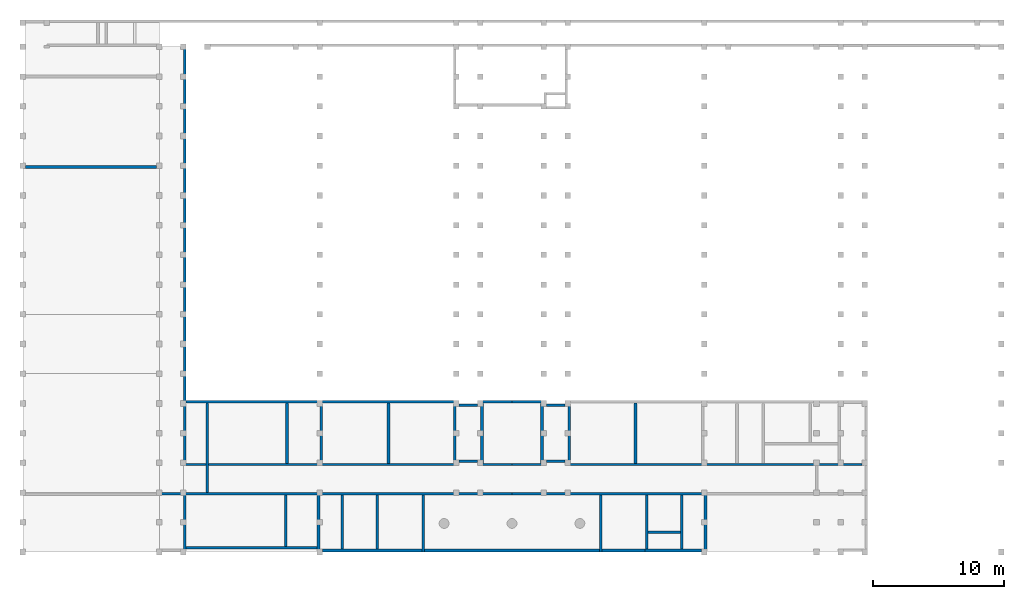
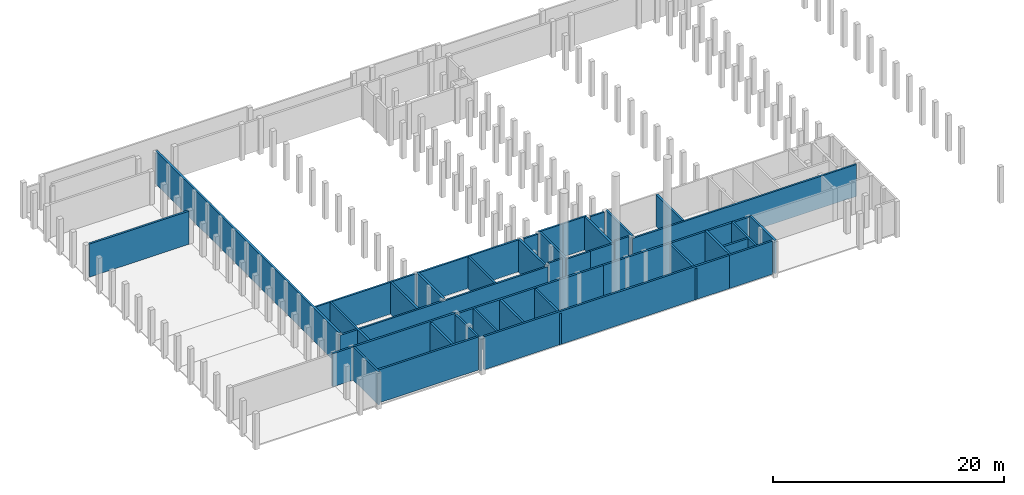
# One storey, part 8 of 9: 40 walls, 1 opening.
"""IFC2X3 building model written with IfcOpenShell, lengths in millimetres."""

from ifc_helpers import new_model, entity, si_unit, converted_unit, derived_unit, direction, frame, frame_2d, origin, place, context, subcontext, project, spatial, polyline, rectangle, extrude, clip, bounded_halfspace, material, layer, layer_set, layer_usage, type_object, element, save


model = new_model("IFC2X3")

# Units and contexts
model_context = context("Model", 3, precision=0.01, world=origin(), true_north=direction((6.12303176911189e-17, 1.0)))
body_context = subcontext(model_context, "Body", "Model", "MODEL_VIEW")
ifc_project = project(units=[si_unit("LENGTHUNIT", "METRE", prefix="MILLI"), si_unit("AREAUNIT", "SQUARE_METRE"), si_unit("VOLUMEUNIT", "CUBIC_METRE"), converted_unit("PLANEANGLEUNIT", "DEGREE", entity("IfcRatioMeasure", 0.0174532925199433), si_unit("PLANEANGLEUNIT", "RADIAN"), dimensions=[0, 0, 0, 0, 0, 0, 0]), si_unit("MASSUNIT", "GRAM", prefix="KILO"), derived_unit("MASSDENSITYUNIT", [(si_unit("MASSUNIT", "GRAM", prefix="KILO"), 1), (si_unit("LENGTHUNIT", "METRE"), -3)]), derived_unit("MOMENTOFINERTIAUNIT", [(si_unit("LENGTHUNIT", "METRE"), 4)]), si_unit("TIMEUNIT", "SECOND"), si_unit("FREQUENCYUNIT", "HERTZ"), si_unit("THERMODYNAMICTEMPERATUREUNIT", "DEGREE_CELSIUS"), derived_unit("THERMALTRANSMITTANCEUNIT", [(si_unit("MASSUNIT", "GRAM", prefix="KILO"), 1), (si_unit("THERMODYNAMICTEMPERATUREUNIT", "KELVIN"), -1), (si_unit("TIMEUNIT", "SECOND"), -3)]), derived_unit("VOLUMETRICFLOWRATEUNIT", [(si_unit("LENGTHUNIT", "METRE"), 3), (si_unit("TIMEUNIT", "SECOND"), -1)]), si_unit("ELECTRICCURRENTUNIT", "AMPERE"), si_unit("ELECTRICVOLTAGEUNIT", "VOLT"), si_unit("POWERUNIT", "WATT"), si_unit("FORCEUNIT", "NEWTON", prefix="KILO"), si_unit("ILLUMINANCEUNIT", "LUX"), si_unit("LUMINOUSFLUXUNIT", "LUMEN"), si_unit("LUMINOUSINTENSITYUNIT", "CANDELA"), derived_unit("USERDEFINED", [(si_unit("MASSUNIT", "GRAM", prefix="KILO"), -1), (si_unit("LENGTHUNIT", "METRE"), -2), (si_unit("TIMEUNIT", "SECOND"), 3), (si_unit("LUMINOUSFLUXUNIT", "LUMEN"), 1)]), derived_unit("LINEARVELOCITYUNIT", [(si_unit("LENGTHUNIT", "METRE"), 1), (si_unit("TIMEUNIT", "SECOND"), -1)]), si_unit("PRESSUREUNIT", "PASCAL"), derived_unit("USERDEFINED", [(si_unit("LENGTHUNIT", "METRE"), -2), (si_unit("MASSUNIT", "GRAM", prefix="KILO"), 1), (si_unit("TIMEUNIT", "SECOND"), -2)]), derived_unit("LINEARFORCEUNIT", [(si_unit("MASSUNIT", "GRAM", prefix="KILO"), 1), (si_unit("LENGTHUNIT", "METRE"), 1), (si_unit("TIMEUNIT", "SECOND"), -2), (si_unit("LENGTHUNIT", "METRE"), -1)]), derived_unit("PLANARFORCEUNIT", [(si_unit("MASSUNIT", "GRAM", prefix="KILO"), 1), (si_unit("LENGTHUNIT", "METRE"), 1), (si_unit("TIMEUNIT", "SECOND"), -2), (si_unit("LENGTHUNIT", "METRE"), -2)])], contexts=[model_context])

# Site, building, storey
site_placement = place(None, frame((10627.5135316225, 21939.0796949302, 0.0)))
site = spatial("IfcSite", under=ifc_project, at=site_placement, Name="Default", CompositionType="ELEMENT")
building_placement = place(site_placement, origin())
building = spatial("IfcBuilding", under=site, at=building_placement, CompositionType="ELEMENT")
storey_placement = place(building_placement, frame((0.0, 0.0, -3500.0)))
storey = spatial("IfcBuildingStorey", under=building, at=storey_placement, Name="R-1", CompositionType="ELEMENT", Elevation=-3500.0)

# Walls
ifc_material_1 = material(Name="Concrete - Cast-in-Place Concrete")
ifc_layer_1 = layer(ifc_material_1, 200.0)
ifc_layer_set_1 = layer_set([ifc_layer_1], Name="Basic Wall:Wall-Fnd_200interior")
ifc_layer_usage_1 = layer_usage(ifc_layer_set_1, "AXIS2", "NEGATIVE", 100.0)
wall_type_1 = type_object("IfcWallType", Name="Basic Wall:Wall-Fnd_200interior", PredefinedType="STANDARD", material=ifc_layer_set_1)
wall_1_placement = place(storey_placement, frame((1682.4864683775, -17519.0796949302, 0.0)))
element("IfcWallStandardCase", 1, at=wall_1_placement, inside=storey, type_object=wall_type_1, material=ifc_layer_usage_1, Name="Basic Wall:Wall-Fnd_200interior", ObjectType="Basic Wall:Wall-Fnd_200interior", context=body_context, shape_type="SweptSolid", body=[
    extrude(rectangle(XDim=10180.0, YDim=199.999999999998, at=frame_2d((5090.0, -3.12638803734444e-13), x_axis=(-1.0, 0.0))), origin(), (0.0, 0.0, 1.0), 3500.0),
])
ifc_layer_usage_2 = layer_usage(ifc_layer_set_1, "AXIS2", "NEGATIVE", 100.0)
wall_2_placement = place(storey_placement, frame((1682.48646837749, -21939.0796949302, 0.0), z_axis=(0.0, 0.0, 1.0), x_axis=(0.0, 1.0, 0.0)))
element("IfcWallStandardCase", 2, at=wall_2_placement, inside=storey, type_object=wall_type_1, material=ifc_layer_usage_2, Name="Basic Wall:Wall-Fnd_200interior", ObjectType="Basic Wall:Wall-Fnd_200interior", context=body_context, shape_type="SweptSolid", body=[
    extrude(rectangle(XDim=4320.0, YDim=200.0, at=frame_2d((2160.0, -2.1316282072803e-14), x_axis=(-1.0, 0.0))), origin(), (0.0, 0.0, 1.0), 3500.0),
])
ifc_layer_usage_3 = layer_usage(ifc_layer_set_1, "AXIS2", "POSITIVE", -100.0)
wall_3_placement = place(storey_placement, frame((11862.4864683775, -21939.0796949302, 0.0), z_axis=(0.0, 0.0, 1.0), x_axis=(0.0, 1.0, 0.0)))
element("IfcWallStandardCase", 3, at=wall_3_placement, inside=storey, type_object=wall_type_1, material=ifc_layer_usage_3, Name="Basic Wall:Wall-Fnd_200interior", ObjectType="Basic Wall:Wall-Fnd_200interior", context=body_context, shape_type="Clipping", body=[
    clip(extrude(rectangle(XDim=4320.0, YDim=199.999999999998, at=frame_2d((2160.0, -1.4210854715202e-13), x_axis=(-1.0, 0.0))), origin(), (0.0, 0.0, 1.0), 3370.0), bounded_halfspace(frame((30.0, -100.0, 3370.0), z_axis=(0.0, 0.0, -1.0), x_axis=(-1.0, 0.0, 0.0)), True, frame((30.0, -100.0, 3370.0)), polyline([(0.0, 0.0), (4290.0, 0.0), (4290.0, 15.0), (0.0, 15.0), (0.0, 0.0)]))),
])
ifc_layer_usage_4 = layer_usage(ifc_layer_set_1, "AXIS2", "POSITIVE", -100.0)
wall_4_placement = place(storey_placement, frame((-462.51353162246, 7340.92030506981, 0.0), z_axis=(0.0, 0.0, 1.0), x_axis=(-1.0, 0.0, 0.0)))
element("IfcWallStandardCase", 4, at=wall_4_placement, inside=storey, type_object=wall_type_1, material=ifc_layer_usage_4, Name="Basic Wall:Wall-Fnd_200interior", ObjectType="Basic Wall:Wall-Fnd_200interior", context=body_context, shape_type="SweptSolid", body=[
    extrude(rectangle(XDim=9950.00000000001, YDim=200.0, at=frame_2d((4975.0, 3.90798504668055e-13), x_axis=(-1.0, 0.0))), origin(), (0.0, 0.0, 1.0), 3500.0),
])
ifc_layer_usage_5 = layer_usage(ifc_layer_set_1, "AXIS2", "NEGATIVE", 100.0)
wall_5_placement = place(storey_placement, frame((41292.4864683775, -21939.0796949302, 0.0), z_axis=(0.0, 0.0, 1.0), x_axis=(0.0, 1.0, 0.0)))
element("IfcWallStandardCase", 5, at=wall_5_placement, inside=storey, type_object=wall_type_1, material=ifc_layer_usage_5, Name="Basic Wall:Wall-Fnd_200interior", ObjectType="Basic Wall:Wall-Fnd_200interior", context=body_context, shape_type="SweptSolid", body=[
    extrude(rectangle(XDim=4319.99999999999, YDim=200.000000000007, at=frame_2d((2160.0, 1.22923893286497e-12), x_axis=(-1.0, 0.0))), origin(), (0.0, 0.0, 1.0), 3500.0),
])
ifc_layer_2 = layer(ifc_material_1, 200.0)
ifc_layer_set_2 = layer_set([ifc_layer_2], Name="Basic Wall:Wall-Fnd_200")
ifc_layer_usage_6 = layer_usage(ifc_layer_set_2, "AXIS2", "NEGATIVE", 100.0)
wall_type_2 = type_object("IfcWallType", Name="Basic Wall:Wall-Fnd_200", PredefinedType="STANDARD", material=ifc_layer_set_2)
wall_6_placement = place(storey_placement, frame((1682.4864683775, -15159.0796949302, 0.0), z_axis=(0.0, 0.0, 1.0), x_axis=(0.0, 1.0, 0.0)))
element("IfcWallStandardCase", 6, at=wall_6_placement, inside=storey, type_object=wall_type_2, material=ifc_layer_usage_6, Name="Basic Wall:Wall-Fnd_200", ObjectType="Basic Wall:Wall-Fnd_200", context=body_context, shape_type="SweptSolid", body=[
    extrude(rectangle(XDim=31755.0, YDim=200.0, at=frame_2d((15877.5, -3.5527136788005e-14), x_axis=(-1.0, 0.0))), origin(), (0.0, 0.0, 1.0), 3500.0),
])
ifc_layer_usage_7 = layer_usage(ifc_layer_set_2, "AXIS2", "POSITIVE", -100.0)
wall_7_placement = place(storey_placement, frame((1682.4864683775, -17519.0796949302, 0.0), z_axis=(0.0, 0.0, 1.0), x_axis=(-1.0, 0.0, 0.0)))
element("IfcWallStandardCase", 7, at=wall_7_placement, inside=storey, type_object=wall_type_2, material=ifc_layer_usage_7, Name="Basic Wall:Wall-Fnd_200", ObjectType="Basic Wall:Wall-Fnd_200", context=body_context, shape_type="SweptSolid", body=[
    extrude(rectangle(XDim=2145.0, YDim=199.999999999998, at=frame_2d((1072.5, 5.61328761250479e-13), x_axis=(-1.0, 0.0))), origin(), (0.0, 0.0, 1.0), 3500.0),
])
ifc_layer_usage_8 = layer_usage(ifc_layer_set_2, "AXIS2", "NEGATIVE", 100.0)
wall_8_placement = place(storey_placement, frame((3412.4864683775, -17419.0796949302, 0.0), z_axis=(0.0, 0.0, 1.0), x_axis=(0.0, 1.0, 0.0)))
element("IfcWallStandardCase", 8, at=wall_8_placement, inside=storey, type_object=wall_type_2, material=ifc_layer_usage_8, Name="Basic Wall:Wall-Fnd_200", ObjectType="Basic Wall:Wall-Fnd_200", context=body_context, shape_type="Clipping", body=[
    clip(extrude(rectangle(XDim=6815.0, YDim=200.0, at=frame_2d((3407.5, 2.8421709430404e-14), x_axis=(-1.0, 0.0))), origin(), (0.0, 0.0, 1.0), 3370.0), bounded_halfspace(frame((0.0, -100.0, 3370.0), z_axis=(0.0, 0.0, -1.0), x_axis=(0.0, -1.0, 0.0)), True, frame((0.0, -100.0, 3370.0)), polyline([(0.0, 0.0), (2045.0, 0.0), (2225.0, 0.0), (6815.0, 0.0), (6815.0, 200.0), (2225.0, 200.0), (2045.0, 200.0), (0.0, 200.0), (0.0, 0.0)]))),
])
ifc_layer_usage_9 = layer_usage(ifc_layer_set_2, "AXIS2", "NEGATIVE", 100.0)
wall_9_placement = place(storey_placement, frame((11862.4864683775, -17519.0796949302, 0.0)))
element("IfcWallStandardCase", 9, at=wall_9_placement, inside=storey, type_object=wall_type_2, material=ifc_layer_usage_9, Name="Basic Wall:Wall-Fnd_200", ObjectType="Basic Wall:Wall-Fnd_200", context=body_context, shape_type="Clipping", body=[
    clip(extrude(rectangle(XDim=14715.0, YDim=199.999999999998, at=frame_2d((7357.5, 1.63424829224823e-13), x_axis=(-1.0, 0.0))), origin(), (0.0, 0.0, 1.0), 3370.0), bounded_halfspace(frame((85.0, -100.0, 3370.0), z_axis=(0.0, 0.0, -1.0), x_axis=(0.0, -1.0, 0.0)), True, frame((85.0, -100.0, 3370.0)), polyline([(0.0, 0.0), (15.0, 0.0), (1629.43983505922, 0.0), (1829.43983505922, 0.0), (4274.37452013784, 0.0), (4474.37452013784, 0.0), (14630.0, 0.0), (14630.0, 200.0), (0.0, 200.0), (0.0, 0.0)]))),
])
ifc_layer_usage_10 = layer_usage(ifc_layer_set_2, "AXIS2", "NEGATIVE", 100.0)
wall_10_placement = place(storey_placement, frame((19821.7745604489, -21939.0796949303, 0.0), z_axis=(0.0, 0.0, 1.0), x_axis=(0.0, 1.0, 0.0)))
element("IfcWallStandardCase", 10, at=wall_10_placement, inside=storey, type_object=wall_type_2, material=ifc_layer_usage_10, Name="Basic Wall:Wall-Fnd_200", ObjectType="Basic Wall:Wall-Fnd_200", context=body_context, shape_type="Clipping", body=[
    clip(extrude(rectangle(XDim=4319.99999999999, YDim=199.999999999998, at=frame_2d((2160.0, 0.0), x_axis=(-1.0, 0.0))), origin(), (0.0, 0.0, 1.0), 3289.0), bounded_halfspace(frame((0.0, -100.0, 3289.0), z_axis=(0.0, 0.0, -1.0), x_axis=(0.0, -1.0, 0.0)), True, frame((0.0, -100.0, 3289.0)), polyline([(0.0, 0.0), (3041.13667119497, 0.0), (3041.13667119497, 200.0), (0.0, 200.0), (0.0, 0.0)]))),
])
ifc_layer_usage_11 = layer_usage(ifc_layer_set_2, "AXIS2", "NEGATIVE", 100.0)
wall_11_placement = place(storey_placement, frame((12177.4864683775, -21824.0796949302, 0.0)))
element("IfcWallStandardCase", 11, at=wall_11_placement, inside=storey, type_object=wall_type_2, material=ifc_layer_usage_11, Name="Basic Wall:Wall-Fnd_200", ObjectType="Basic Wall:Wall-Fnd_200", context=body_context, shape_type="SweptSolid", body=[
    extrude(rectangle(XDim=24500.0, YDim=199.999999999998, at=frame_2d((12250.0, -1.27897692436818e-13), x_axis=(-1.0, 0.0))), origin(), (0.0, 0.0, 1.0), 3500.0),
])
ifc_layer_usage_12 = layer_usage(ifc_layer_set_2, "AXIS2", "POSITIVE", -100.0)
wall_12_placement = place(storey_placement, frame((16321.8609885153, -17619.0796949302, 0.0), z_axis=(0.0, 0.0, 1.0), x_axis=(0.0, -1.0, 0.0)))
element("IfcWallStandardCase", 12, at=wall_12_placement, inside=storey, type_object=wall_type_2, material=ifc_layer_usage_12, Name="Basic Wall:Wall-Fnd_200", ObjectType="Basic Wall:Wall-Fnd_200", context=body_context, shape_type="Clipping", body=[
    clip(extrude(rectangle(XDim=4104.99999999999, YDim=199.999999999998, at=frame_2d((2052.5, -7.105427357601e-14), x_axis=(-1.0, 0.0))), origin(), (0.0, 0.0, 1.0), 3370.0), bounded_halfspace(frame((0.0, -100.0, 3370.0), z_axis=(0.0, 0.0, -1.0), x_axis=(1.0, 0.0, 0.0)), True, frame((0.0, -100.0, 3370.0)), polyline([(0.0, 0.0), (4105.0, 0.0), (4105.0, 200.0), (0.0, 200.0), (0.0, 0.0)]))),
])
ifc_layer_usage_13 = layer_usage(ifc_layer_set_2, "AXIS2", "POSITIVE", -100.0)
wall_13_placement = place(storey_placement, frame((13676.9263034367, -17619.0796949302, 0.0), z_axis=(0.0, 0.0, 1.0), x_axis=(0.0, -1.0, 0.0)))
element("IfcWallStandardCase", 13, at=wall_13_placement, inside=storey, type_object=wall_type_2, material=ifc_layer_usage_13, Name="Basic Wall:Wall-Fnd_200", ObjectType="Basic Wall:Wall-Fnd_200", context=body_context, shape_type="Clipping", body=[
    clip(extrude(rectangle(XDim=4104.99999999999, YDim=199.999999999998, at=frame_2d((2052.5, -7.105427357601e-14), x_axis=(-1.0, 0.0))), origin(), (0.0, 0.0, 1.0), 3370.0), bounded_halfspace(frame((0.0, -100.0, 3370.0), z_axis=(0.0, 0.0, -1.0), x_axis=(1.0, 0.0, 0.0)), True, frame((0.0, -100.0, 3370.0)), polyline([(0.0, 0.0), (4105.0, 0.0), (4105.0, 200.0), (0.0, 200.0), (0.0, 0.0)]))),
])
ifc_layer_usage_14 = layer_usage(ifc_layer_set_2, "AXIS2", "POSITIVE", -100.0)
wall_14_placement = place(storey_placement, frame((41292.4864683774, -17519.0796949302, 0.0), z_axis=(0.0, 0.0, 1.0), x_axis=(-1.0, 0.0, 0.0)))
element("IfcWallStandardCase", 14, at=wall_14_placement, inside=storey, type_object=wall_type_2, material=ifc_layer_usage_14, Name="Basic Wall:Wall-Fnd_200", ObjectType="Basic Wall:Wall-Fnd_200", context=body_context, shape_type="Clipping", body=[
    clip(extrude(rectangle(XDim=14715.0, YDim=199.999999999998, at=frame_2d((7357.5, -1.56319401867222e-13), x_axis=(-1.0, 0.0))), origin(), (0.0, 0.0, 1.0), 3370.0), bounded_halfspace(frame((4535.0, -100.0, 3370.0), z_axis=(0.0, 0.0, -1.0), x_axis=(0.0, 1.0, 0.0)), True, frame((4535.0, -100.0, 3370.0)), polyline([(0.0, 0.0), (10180.0, 0.0), (10180.0, 200.0), (0.0, 200.0), (0.0, 0.0)]))),
])
ifc_layer_usage_15 = layer_usage(ifc_layer_set_2, "AXIS2", "POSITIVE", -100.0)
wall_15_placement = place(storey_placement, frame((33333.198376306, -21939.0796949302, 0.0), z_axis=(0.0, 0.0, 1.0), x_axis=(0.0, 1.0, 0.0)))
element("IfcWallStandardCase", 15, at=wall_15_placement, inside=storey, type_object=wall_type_2, material=ifc_layer_usage_15, Name="Basic Wall:Wall-Fnd_200", ObjectType="Basic Wall:Wall-Fnd_200", context=body_context, shape_type="Clipping", body=[
    clip(extrude(rectangle(XDim=4319.99999999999, YDim=199.999999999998, at=frame_2d((2160.0, 0.0), x_axis=(-1.0, 0.0))), origin(), (0.0, 0.0, 1.0), 3289.0), bounded_halfspace(frame((0.0, -100.0, 3289.0), z_axis=(0.0, 0.0, -1.0), x_axis=(0.0, -1.0, 0.0)), True, frame((0.0, -100.0, 3289.0)), polyline([(0.0, 0.0), (3041.13667119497, 0.0), (3041.13667119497, 200.0), (0.0, 200.0), (0.0, 0.0)]))),
])
ifc_layer_usage_16 = layer_usage(ifc_layer_set_2, "AXIS2", "POSITIVE", -100.0)
wall_16_placement = place(storey_placement, frame((40977.4864683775, -21824.0796949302, 0.0), z_axis=(0.0, 0.0, 1.0), x_axis=(-1.0, 0.0, 0.0)))
element("IfcWallStandardCase", 16, at=wall_16_placement, inside=storey, type_object=wall_type_2, material=ifc_layer_usage_16, Name="Basic Wall:Wall-Fnd_200", ObjectType="Basic Wall:Wall-Fnd_200", context=body_context, shape_type="SweptSolid", body=[
    extrude(rectangle(XDim=4300.0, YDim=199.999999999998, at=frame_2d((2150.0, 6.3948846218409e-14), x_axis=(-1.0, 0.0))), origin(), (0.0, 0.0, 1.0), 3500.0),
])
ifc_layer_usage_17 = layer_usage(ifc_layer_set_2, "AXIS2", "NEGATIVE", 100.0)
wall_17_placement = place(storey_placement, frame((36833.1119482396, -17619.0796949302, 0.0), z_axis=(0.0, 0.0, 1.0), x_axis=(0.0, -1.0, 0.0)))
element("IfcWallStandardCase", 17, at=wall_17_placement, inside=storey, type_object=wall_type_2, material=ifc_layer_usage_17, Name="Basic Wall:Wall-Fnd_200", ObjectType="Basic Wall:Wall-Fnd_200", context=body_context, shape_type="SweptSolid", body=[
    extrude(rectangle(XDim=4104.99999999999, YDim=199.999999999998, at=frame_2d((2052.5, -1.00186525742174e-12), x_axis=(-1.0, 0.0))), origin(), (0.0, 0.0, 1.0), 3500.0),
])
ifc_layer_usage_18 = layer_usage(ifc_layer_set_2, "AXIS2", "NEGATIVE", 100.0)
wall_18_placement = place(storey_placement, frame((39478.0466333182, -17619.0796949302, 0.0), z_axis=(0.0, 0.0, 1.0), x_axis=(0.0, -1.0, 0.0)))
element("IfcWallStandardCase", 18, at=wall_18_placement, inside=storey, type_object=wall_type_2, material=ifc_layer_usage_18, Name="Basic Wall:Wall-Fnd_200", ObjectType="Basic Wall:Wall-Fnd_200", context=body_context, shape_type="SweptSolid", body=[
    extrude(rectangle(XDim=4104.99999999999, YDim=200.000000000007, at=frame_2d((2052.5, 1.15818465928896e-12), x_axis=(-1.0, 0.0))), origin(), (0.0, 0.0, 1.0), 3500.0),
])
ifc_layer_usage_19 = layer_usage(ifc_layer_set_2, "AXIS2", "POSITIVE", -100.0)
wall_19_placement = place(storey_placement, frame((39378.0466333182, -20424.0796949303, 0.0), z_axis=(0.0, 0.0, 1.0), x_axis=(-1.0, 0.0, 0.0)))
element("IfcWallStandardCase", 19, at=wall_19_placement, inside=storey, type_object=wall_type_2, material=ifc_layer_usage_19, Name="Basic Wall:Wall-Fnd_200", ObjectType="Basic Wall:Wall-Fnd_200", context=body_context, shape_type="SweptSolid", body=[
    extrude(rectangle(XDim=2444.93468507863, YDim=199.999999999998, at=frame_2d((1222.46734253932, -3.26849658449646e-13), x_axis=(-1.0, 0.0))), origin(), (0.0, 0.0, 1.0), 3500.0),
])

# Wall, opening
ifc_layer_3 = layer(ifc_material_1, 180.0)
ifc_layer_set_3 = layer_set([ifc_layer_3], Name="Basic Wall:Mur S/SOL 18")
ifc_layer_usage_20 = layer_usage(ifc_layer_set_3, "AXIS2", "NEGATIVE", 90.0)
wall_type_3 = type_object("IfcWallType", Name="Basic Wall:Mur S/SOL 18", PredefinedType="STANDARD", material=ifc_layer_set_3)
wall_20_placement = place(storey_placement, frame((22342.4864683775, -15284.0796949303, 0.0), z_axis=(0.0, 0.0, 1.0), x_axis=(-1.0, 0.0, 0.0)))
wall_20 = element("IfcWallStandardCase", 20, at=wall_20_placement, inside=storey, type_object=wall_type_3, material=ifc_layer_usage_20, Name="Basic Wall:Mur S/SOL 18", ObjectType="Basic Wall:Mur S/SOL 18", context=body_context, shape_type="Clipping", body=[
    clip(extrude(rectangle(XDim=20760.0, YDim=179.999999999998, at=frame_2d((10380.0, 0.0), x_axis=(-1.0, 0.0))), origin(), (0.0, 0.0, 1.0), 3370.0), bounded_halfspace(frame((0.0, -90.0, 3370.0), z_axis=(0.0, 0.0, -1.0), x_axis=(0.0, 1.0, 0.0)), True, frame((0.0, -90.0, 3370.0)), polyline([(0.0, 0.0), (5060.0, 0.0), (5260.0, 0.0), (10395.0, 0.0), (10395.0, 180.0), (0.0, 180.0), (0.0, 0.0)]))),
])
opening_placement = place(storey_placement, frame((22342.4864683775, -15284.0796949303, 0.0), z_axis=(0.0, 0.0, 1.0), x_axis=(-1.0, 0.0, 0.0)))
element("IfcOpeningElement", 21, at=opening_placement, cuts=wall_20, Name="Basic Wall:Mur S/SOL 18:1", ObjectType="Opening", context=body_context, shape_type="SweptSolid", body=[
    extrude(rectangle(XDim=3370.0, YDim=180.0, at=frame_2d((-3.41060513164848e-13, 1.08002495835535e-12), x_axis=(1.0, 0.0))), frame((19030.0, 0.0, 1685.0), z_axis=(-1.0, 0.0, 0.0), x_axis=(0.0, 0.0, 1.0)), (0.0, 0.0, 1.0), 200.0),
])

# Walls
ifc_layer_usage_21 = layer_usage(ifc_layer_set_3, "AXIS2", "NEGATIVE", 90.0)
wall_21_placement = place(storey_placement, frame((1795.48646837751, -10514.0796949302, 0.0)))
element("IfcWallStandardCase", 22, at=wall_21_placement, inside=storey, type_object=wall_type_3, material=ifc_layer_usage_21, Name="Basic Wall:Mur S/SOL 18", ObjectType="Basic Wall:Mur S/SOL 18", context=body_context, shape_type="Clipping", body=[
    clip(extrude(rectangle(XDim=20547.0, YDim=179.999999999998, at=frame_2d((10273.5, 0.0), x_axis=(-1.0, 0.0))), origin(), (0.0, 0.0, 1.0), 3370.0), bounded_halfspace(frame((0.0, -90.0, 3370.0), z_axis=(0.0, 0.0, -1.0), x_axis=(1.0, 0.0, 0.0)), True, frame((0.0, -90.0, 3370.0)), polyline([(0.0, 0.0), (1517.0, 0.0), (1717.0, 0.0), (7567.0, 0.0), (7767.0, 0.0), (10167.0, 0.0), (10167.0, 180.0), (0.0, 180.0), (0.0, 0.0)]))),
])
ifc_layer_usage_22 = layer_usage(ifc_layer_set_3, "AXIS2", "NEGATIVE", 90.0)
wall_22_placement = place(storey_placement, frame((24172.4864683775, -10514.0796949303, 0.0)))
element("IfcWallStandardCase", 23, at=wall_22_placement, inside=storey, type_object=wall_type_3, material=ifc_layer_usage_22, Name="Basic Wall:Mur S/SOL 18", ObjectType="Basic Wall:Mur S/SOL 18", context=body_context, shape_type="SweptSolid", body=[
    extrude(rectangle(XDim=2405.0, YDim=179.999999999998, at=frame_2d((1202.5, 4.61852778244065e-13), x_axis=(-1.0, 0.0))), origin(), (0.0, 0.0, 1.0), 3500.0),
])
ifc_layer_usage_23 = layer_usage(ifc_layer_set_3, "AXIS2", "POSITIVE", -90.0)
wall_23_placement = place(storey_placement, frame((24199.9864683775, -15284.0796949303, 0.0)))
element("IfcWallStandardCase", 24, at=wall_23_placement, inside=storey, type_object=wall_type_3, material=ifc_layer_usage_23, Name="Basic Wall:Mur S/SOL 18", ObjectType="Basic Wall:Mur S/SOL 18", context=body_context, shape_type="SweptSolid", body=[
    extrude(rectangle(XDim=2377.5, YDim=179.999999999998, at=frame_2d((1188.75, 2.77111666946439e-13), x_axis=(-1.0, 0.0))), origin(), (0.0, 0.0, 1.0), 3500.0),
])
ifc_layer_usage_24 = layer_usage(ifc_layer_set_3, "AXIS2", "NEGATIVE", 90.0)
wall_24_placement = place(storey_placement, frame((22557.4864683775, -15034.0796949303, 0.0)))
element("IfcWallStandardCase", 25, at=wall_24_placement, inside=storey, type_object=wall_type_3, material=ifc_layer_usage_24, Name="Basic Wall:Mur S/SOL 18", ObjectType="Basic Wall:Mur S/SOL 18", context=body_context, shape_type="SweptSolid", body=[
    extrude(rectangle(XDim=1400.0, YDim=179.999999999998, at=frame_2d((700.000000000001, 0.0), x_axis=(-1.0, 0.0))), origin(), (0.0, 0.0, 1.0), 3500.0),
])
ifc_layer_usage_25 = layer_usage(ifc_layer_set_3, "AXIS2", "POSITIVE", -90.0)
wall_25_placement = place(storey_placement, frame((22557.4864683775, -10764.0796949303, 0.0)))
element("IfcWallStandardCase", 26, at=wall_25_placement, inside=storey, type_object=wall_type_3, material=ifc_layer_usage_25, Name="Basic Wall:Mur S/SOL 18", ObjectType="Basic Wall:Mur S/SOL 18", context=body_context, shape_type="SweptSolid", body=[
    extrude(rectangle(XDim=1400.0, YDim=179.999999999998, at=frame_2d((700.000000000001, 0.0), x_axis=(-1.0, 0.0))), origin(), (0.0, 0.0, 1.0), 3500.0),
])
ifc_layer_usage_26 = layer_usage(ifc_layer_set_3, "AXIS2", "POSITIVE", -90.0)
wall_26_placement = place(storey_placement, frame((30812.4864683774, -15284.0796949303, 0.0)))
element("IfcWallStandardCase", 27, at=wall_26_placement, inside=storey, type_object=wall_type_3, material=ifc_layer_usage_26, Name="Basic Wall:Mur S/SOL 18", ObjectType="Basic Wall:Mur S/SOL 18", context=body_context, shape_type="Clipping", body=[
    clip(extrude(rectangle(XDim=22377.0, YDim=179.999999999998, at=frame_2d((11188.5, -4.47641923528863e-13), x_axis=(-1.0, 0.0))), origin(), (0.0, 0.0, 1.0), 3370.0), bounded_halfspace(frame((10380.0, -90.0, 3370.0), z_axis=(0.0, 0.0, -1.0), x_axis=(1.0, 0.0, 0.0)), True, frame((10380.0, -90.0, 3370.0)), polyline([(0.0, 0.0), (10380.0, 0.0), (10380.0, 180.0), (4585.0, 180.0), (4385.0, 180.0), (2600.0, 180.0), (2400.0, 180.0), (0.0, 180.0), (0.0, 0.0)]))),
])
ifc_layer_usage_27 = layer_usage(ifc_layer_set_3, "AXIS2", "POSITIVE", -90.0)
wall_27_placement = place(storey_placement, frame((28982.4864683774, -10514.0796949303, 0.0), z_axis=(0.0, 0.0, 1.0), x_axis=(-1.0, 0.0, 0.0)))
element("IfcWallStandardCase", 28, at=wall_27_placement, inside=storey, type_object=wall_type_3, material=ifc_layer_usage_27, Name="Basic Wall:Mur S/SOL 18", ObjectType="Basic Wall:Mur S/SOL 18", context=body_context, shape_type="SweptSolid", body=[
    extrude(rectangle(XDim=2405.0, YDim=179.999999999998, at=frame_2d((1202.5, -4.68958205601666e-13), x_axis=(-1.0, 0.0))), origin(), (0.0, 0.0, 1.0), 3500.0),
])
ifc_layer_usage_28 = layer_usage(ifc_layer_set_3, "AXIS2", "NEGATIVE", 90.0)
wall_28_placement = place(storey_placement, frame((28954.9864683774, -15284.0796949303, 0.0), z_axis=(0.0, 0.0, 1.0), x_axis=(-1.0, 0.0, 0.0)))
element("IfcWallStandardCase", 29, at=wall_28_placement, inside=storey, type_object=wall_type_3, material=ifc_layer_usage_28, Name="Basic Wall:Mur S/SOL 18", ObjectType="Basic Wall:Mur S/SOL 18", context=body_context, shape_type="SweptSolid", body=[
    extrude(rectangle(XDim=2377.5, YDim=179.999999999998, at=frame_2d((1188.75, -2.77111666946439e-13), x_axis=(-1.0, 0.0))), origin(), (0.0, 0.0, 1.0), 3500.0),
])
ifc_layer_usage_29 = layer_usage(ifc_layer_set_3, "AXIS2", "POSITIVE", -90.0)
wall_29_placement = place(storey_placement, frame((30597.4864683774, -15034.0796949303, 0.0), z_axis=(0.0, 0.0, 1.0), x_axis=(-1.0, 0.0, 0.0)))
element("IfcWallStandardCase", 30, at=wall_29_placement, inside=storey, type_object=wall_type_3, material=ifc_layer_usage_29, Name="Basic Wall:Mur S/SOL 18", ObjectType="Basic Wall:Mur S/SOL 18", context=body_context, shape_type="SweptSolid", body=[
    extrude(rectangle(XDim=1400.0, YDim=179.999999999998, at=frame_2d((700.000000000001, 0.0), x_axis=(-1.0, 0.0))), origin(), (0.0, 0.0, 1.0), 3500.0),
])
ifc_layer_usage_30 = layer_usage(ifc_layer_set_3, "AXIS2", "NEGATIVE", 90.0)
wall_30_placement = place(storey_placement, frame((30597.4864683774, -10764.0796949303, 0.0), z_axis=(0.0, 0.0, 1.0), x_axis=(-1.0, 0.0, 0.0)))
element("IfcWallStandardCase", 31, at=wall_30_placement, inside=storey, type_object=wall_type_3, material=ifc_layer_usage_30, Name="Basic Wall:Mur S/SOL 18", ObjectType="Basic Wall:Mur S/SOL 18", context=body_context, shape_type="SweptSolid", body=[
    extrude(rectangle(XDim=1400.0, YDim=179.999999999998, at=frame_2d((700.000000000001, 0.0), x_axis=(-1.0, 0.0))), origin(), (0.0, 0.0, 1.0), 3500.0),
])
ifc_material_2 = material(Name="Plaster")
ifc_layer_4 = layer(ifc_material_2, 12.5)
ifc_material_3 = material(Name="Concrete Masonry Units")
ifc_layer_5 = layer(ifc_material_3, 175.0)
ifc_layer_6 = layer(ifc_material_2, 12.5)
ifc_layer_set_4 = layer_set([ifc_layer_4, ifc_layer_5, ifc_layer_6], Name="Basic Wall:Wall-Int_200")
ifc_layer_usage_31 = layer_usage(ifc_layer_set_4, "AXIS2", "NEGATIVE", 100.0)
wall_type_4 = type_object("IfcWallType", Name="Basic Wall:Wall-Int_200", PredefinedType="STANDARD", material=ifc_layer_set_4)
wall_31_placement = place(storey_placement, frame((9462.4864683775, -15194.0796949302, 0.0), z_axis=(0.0, 0.0, 1.0), x_axis=(0.0, 1.0, 0.0)))
element("IfcWallStandardCase", 32, at=wall_31_placement, inside=storey, type_object=wall_type_4, material=ifc_layer_usage_31, Name="Basic Wall:Wall-Int_200", ObjectType="Basic Wall:Wall-Int_200", context=body_context, shape_type="Clipping", body=[
    clip(extrude(rectangle(XDim=4590.0, YDim=200.0, at=frame_2d((2295.0, -1.4210854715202e-13), x_axis=(-1.0, 0.0))), origin(), (0.0, 0.0, 1.0), 3370.0), bounded_halfspace(frame((0.0, -100.0, 3370.0), z_axis=(0.0, 0.0, -1.0), x_axis=(0.0, -1.0, 0.0)), True, frame((0.0, -100.0, 3370.0)), polyline([(0.0, 0.0), (4590.0, 0.0), (4590.0, 200.0), (0.0, 200.0), (0.0, 0.0)]))),
])
ifc_layer_usage_32 = layer_usage(ifc_layer_set_4, "AXIS2", "POSITIVE", -100.0)
wall_32_placement = place(storey_placement, frame((12077.4864683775, -15159.0796949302, 0.0), z_axis=(0.0, 0.0, 1.0), x_axis=(0.0, 1.0, 0.0)))
element("IfcWallStandardCase", 33, at=wall_32_placement, inside=storey, type_object=wall_type_4, material=ifc_layer_usage_32, Name="Basic Wall:Wall-Int_200", ObjectType="Basic Wall:Wall-Int_200", context=body_context, shape_type="SweptSolid", body=[
    extrude(rectangle(XDim=4555.0, YDim=199.999999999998, at=frame_2d((2277.5, -5.6843418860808e-14), x_axis=(-1.0, 0.0))), origin(), (0.0, 0.0, 1.0), 3500.0),
])
ifc_layer_usage_33 = layer_usage(ifc_layer_set_4, "AXIS2", "NEGATIVE", 100.0)
wall_33_placement = place(storey_placement, frame((17182.4864683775, -15194.0796949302, 0.0), z_axis=(0.0, 0.0, 1.0), x_axis=(0.0, 1.0, 0.0)))
element("IfcWallStandardCase", 34, at=wall_33_placement, inside=storey, type_object=wall_type_4, material=ifc_layer_usage_33, Name="Basic Wall:Wall-Int_200", ObjectType="Basic Wall:Wall-Int_200", context=body_context, shape_type="Clipping", body=[
    clip(extrude(rectangle(XDim=4590.0, YDim=199.999999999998, at=frame_2d((2295.0, -1.56319401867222e-13), x_axis=(-1.0, 0.0))), origin(), (0.0, 0.0, 1.0), 3370.0), bounded_halfspace(frame((0.0, -100.0, 3370.0), z_axis=(0.0, 0.0, -1.0), x_axis=(-1.0, 0.0, 0.0)), True, frame((0.0, -100.0, 3370.0)), polyline([(0.0, 0.0), (1470.30614109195, 0.0), (1570.30614109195, 0.0), (3375.66791870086, 0.0), (3475.66791870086, 0.0), (4555.0, 0.0), (4555.0, 200.0), (3475.66791870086, 200.0), (3375.66791870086, 200.0), (1570.30614109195, 200.0), (1470.30614109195, 200.0), (0.0, 200.0), (0.0, 0.0)]))),
])
ifc_layer_usage_34 = layer_usage(ifc_layer_set_4, "AXIS2", "NEGATIVE", 100.0)
wall_34_placement = place(storey_placement, frame((22214.9864683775, -15159.0796949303, 0.0), z_axis=(0.0, 0.0, 1.0), x_axis=(0.0, 1.0, 0.0)))
element("IfcWallStandardCase", 35, at=wall_34_placement, inside=storey, type_object=wall_type_4, material=ifc_layer_usage_34, Name="Basic Wall:Wall-Int_200", ObjectType="Basic Wall:Wall-Int_200", context=body_context, shape_type="SweptSolid", body=[
    extrude(rectangle(XDim=4520.0, YDim=199.999999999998, at=frame_2d((2260.0, 0.0), x_axis=(-1.0, 0.0))), origin(), (0.0, 0.0, 1.0), 3500.0),
])
ifc_layer_usage_35 = layer_usage(ifc_layer_set_4, "AXIS2", "NEGATIVE", 100.0)
wall_35_placement = place(storey_placement, frame((24299.9864683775, -10604.0796949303, 0.0), z_axis=(0.0, 0.0, 1.0), x_axis=(0.0, -1.0, 0.0)))
element("IfcWallStandardCase", 36, at=wall_35_placement, inside=storey, type_object=wall_type_4, material=ifc_layer_usage_35, Name="Basic Wall:Wall-Int_200", ObjectType="Basic Wall:Wall-Int_200", context=body_context, shape_type="SweptSolid", body=[
    extrude(rectangle(XDim=4590.0, YDim=199.999999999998, at=frame_2d((2295.0, 0.0), x_axis=(-1.0, 0.0))), origin(), (0.0, 0.0, 1.0), 3500.0),
])
ifc_layer_usage_36 = layer_usage(ifc_layer_set_4, "AXIS2", "NEGATIVE", 100.0)
wall_36_placement = place(storey_placement, frame((9374.9864683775, -17619.0796949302, 0.0), z_axis=(0.0, 0.0, 1.0), x_axis=(0.0, -1.0, 0.0)))
element("IfcWallStandardCase", 37, at=wall_36_placement, inside=storey, type_object=wall_type_4, material=ifc_layer_usage_36, Name="Basic Wall:Wall-Int_200", ObjectType="Basic Wall:Wall-Int_200", context=body_context, shape_type="Clipping", body=[
    clip(extrude(rectangle(XDim=3892.49999999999, YDim=200.0, at=frame_2d((1946.25, -1.20792265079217e-13), x_axis=(-1.0, 0.0))), origin(), (0.0, 0.0, 1.0), 3370.0), bounded_halfspace(frame((1.71896425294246, -100.0, 3370.0), z_axis=(0.0, 0.0, -1.0), x_axis=(1.0, 0.0, 0.0)), True, frame((1.71896425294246, -100.0, 3370.0)), polyline([(0.0, 0.0), (3890.78103574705, 0.0), (3890.78103574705, 200.0), (0.0, 200.0), (0.0, 0.0)]))),
])
ifc_layer_usage_37 = layer_usage(ifc_layer_set_4, "AXIS2", "POSITIVE", -100.0)
wall_37_placement = place(storey_placement, frame((11762.4864683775, -21611.5796949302, 0.0), z_axis=(0.0, 0.0, 1.0), x_axis=(-1.0, 0.0, 0.0)))
element("IfcWallStandardCase", 38, at=wall_37_placement, inside=storey, type_object=wall_type_4, material=ifc_layer_usage_37, Name="Basic Wall:Wall-Int_200", ObjectType="Basic Wall:Wall-Int_200", context=body_context, shape_type="SweptSolid", body=[
    extrude(rectangle(XDim=9980.0, YDim=199.999999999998, at=frame_2d((4990.0, -3.33955085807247e-13), x_axis=(-1.0, 0.0))), origin(), (0.0, 0.0, 1.0), 3500.0),
])
ifc_layer_usage_38 = layer_usage(ifc_layer_set_4, "AXIS2", "POSITIVE", -100.0)
wall_38_placement = place(storey_placement, frame((35972.4864683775, -15194.0796949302, 0.0), z_axis=(0.0, 0.0, 1.0), x_axis=(0.0, 1.0, 0.0)))
element("IfcWallStandardCase", 39, at=wall_38_placement, inside=storey, type_object=wall_type_4, material=ifc_layer_usage_38, Name="Basic Wall:Wall-Int_200", ObjectType="Basic Wall:Wall-Int_200", context=body_context, shape_type="Clipping", body=[
    clip(extrude(rectangle(XDim=4590.0, YDim=199.999999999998, at=frame_2d((2295.0, 1.63424829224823e-13), x_axis=(-1.0, 0.0))), origin(), (0.0, 0.0, 1.0), 3370.0), bounded_halfspace(frame((0.0, -100.0, 3370.0), z_axis=(0.0, 0.0, -1.0), x_axis=(-1.0, 0.0, 0.0)), True, frame((0.0, -100.0, 3370.0)), polyline([(0.0, 0.0), (1470.30614109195, 0.0), (1570.30614109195, 0.0), (3375.66791870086, 0.0), (3475.66791870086, 0.0), (4555.0, 0.0), (4555.0, 200.0), (3475.66791870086, 200.0), (3375.66791870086, 200.0), (1570.30614109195, 200.0), (1470.30614109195, 200.0), (0.0, 200.0), (0.0, 0.0)]))),
])
ifc_layer_usage_39 = layer_usage(ifc_layer_set_4, "AXIS2", "POSITIVE", -100.0)
wall_39_placement = place(storey_placement, frame((30939.9864683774, -15159.0796949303, 0.0), z_axis=(0.0, 0.0, 1.0), x_axis=(0.0, 1.0, 0.0)))
element("IfcWallStandardCase", 40, at=wall_39_placement, inside=storey, type_object=wall_type_4, material=ifc_layer_usage_39, Name="Basic Wall:Wall-Int_200", ObjectType="Basic Wall:Wall-Int_200", context=body_context, shape_type="SweptSolid", body=[
    extrude(rectangle(XDim=4520.0, YDim=199.999999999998, at=frame_2d((2260.0, 0.0), x_axis=(-1.0, 0.0))), origin(), (0.0, 0.0, 1.0), 3500.0),
])
ifc_layer_usage_40 = layer_usage(ifc_layer_set_4, "AXIS2", "POSITIVE", -100.0)
wall_40_placement = place(storey_placement, frame((28854.9864683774, -10604.0796949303, 0.0), z_axis=(0.0, 0.0, 1.0), x_axis=(0.0, -1.0, 0.0)))
element("IfcWallStandardCase", 41, at=wall_40_placement, inside=storey, type_object=wall_type_4, material=ifc_layer_usage_40, Name="Basic Wall:Wall-Int_200", ObjectType="Basic Wall:Wall-Int_200", context=body_context, shape_type="SweptSolid", body=[
    extrude(rectangle(XDim=4590.0, YDim=199.999999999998, at=frame_2d((2295.0, 0.0), x_axis=(-1.0, 0.0))), origin(), (0.0, 0.0, 1.0), 3500.0),
])

save(model, "model.ifc")
